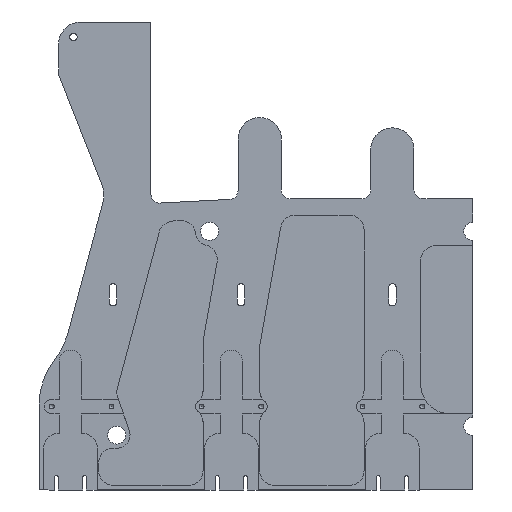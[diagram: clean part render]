
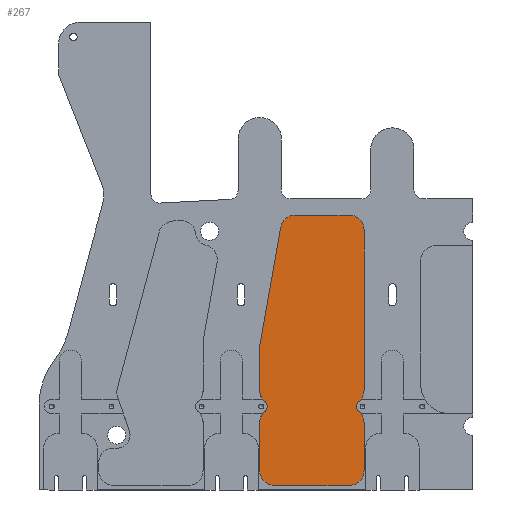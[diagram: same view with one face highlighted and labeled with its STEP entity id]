
A CAD part, front view. The second image highlights one B-rep face of the part: STEP entity #267.
In plain terms, the highlighted planar face has unit normal (0, -1, 0).
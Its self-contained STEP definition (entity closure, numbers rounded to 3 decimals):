
#267=ADVANCED_FACE('',(#1882),#1884,.T.);
#1882=FACE_BOUND('',#1883,.T.);
#1883=EDGE_LOOP('',(#3302,#3303,#3304,#3305,#3306,#3307,#3308,#3309,#3310,#3311,
#3312,#3313,#3314,#3315,#3316,#3317,#3318,#3319));
#1884=PLANE('',#1885);
#1885=AXIS2_PLACEMENT_3D('',#1886,#1887,#1888);
#1886=CARTESIAN_POINT('',(0.,9.,0.));
#1887=DIRECTION('',(0.,-1.,0.));
#1888=DIRECTION('',(1.,0.,0.));
#3302=ORIENTED_EDGE('',*,*,#3838,.T.);
#3303=ORIENTED_EDGE('',*,*,#3836,.T.);
#3304=ORIENTED_EDGE('',*,*,#3834,.T.);
#3305=ORIENTED_EDGE('',*,*,#4060,.T.);
#3306=ORIENTED_EDGE('',*,*,#4061,.T.);
#3307=ORIENTED_EDGE('',*,*,#4062,.T.);
#3308=ORIENTED_EDGE('',*,*,#4063,.T.);
#3309=ORIENTED_EDGE('',*,*,#4064,.T.);
#3310=ORIENTED_EDGE('',*,*,#4024,.T.);
#3311=ORIENTED_EDGE('',*,*,#4037,.T.);
#3312=ORIENTED_EDGE('',*,*,#4010,.T.);
#3313=ORIENTED_EDGE('',*,*,#4007,.T.);
#3314=ORIENTED_EDGE('',*,*,#4005,.T.);
#3315=ORIENTED_EDGE('',*,*,#4003,.T.);
#3316=ORIENTED_EDGE('',*,*,#4001,.T.);
#3317=ORIENTED_EDGE('',*,*,#3999,.T.);
#3318=ORIENTED_EDGE('',*,*,#3997,.T.);
#3319=ORIENTED_EDGE('',*,*,#3995,.T.);
#3834=EDGE_CURVE('',#4880,#4878,#4881,.T.);
#3836=EDGE_CURVE('',#4883,#4880,#4884,.T.);
#3838=EDGE_CURVE('',#4886,#4883,#4887,.T.);
#3995=EDGE_CURVE('',#5096,#4886,#5097,.T.);
#3997=EDGE_CURVE('',#5099,#5096,#5100,.T.);
#3999=EDGE_CURVE('',#5102,#5099,#5103,.T.);
#4001=EDGE_CURVE('',#5105,#5102,#5106,.T.);
#4003=EDGE_CURVE('',#5108,#5105,#5109,.T.);
#4005=EDGE_CURVE('',#5111,#5108,#5112,.T.);
#4007=EDGE_CURVE('',#5114,#5111,#5115,.T.);
#4010=EDGE_CURVE('',#5118,#5114,#5119,.T.);
#4024=EDGE_CURVE('',#5135,#5133,#5136,.T.);
#4037=EDGE_CURVE('',#5133,#5118,#5155,.T.);
#4060=EDGE_CURVE('',#4878,#5191,#5193,.T.);
#4061=EDGE_CURVE('',#5191,#5194,#5195,.T.);
#4062=EDGE_CURVE('',#5194,#5196,#5197,.T.);
#4063=EDGE_CURVE('',#5196,#5198,#5199,.T.);
#4064=EDGE_CURVE('',#5198,#5135,#5200,.T.);
#4878=VERTEX_POINT('',#7025);
#4880=VERTEX_POINT('',#7029);
#4881=CIRCLE('',#7030,10.);
#4883=VERTEX_POINT('',#7037);
#4884=CIRCLE('',#7038,4.);
#4886=VERTEX_POINT('',#7045);
#4887=CIRCLE('',#7046,10.);
#5096=VERTEX_POINT('',#7594);
#5097=LINE('',#7595,#7596);
#5099=VERTEX_POINT('',#7601);
#5100=CIRCLE('',#7602,10.);
#5102=VERTEX_POINT('',#7609);
#5103=LINE('',#7610,#7611);
#5105=VERTEX_POINT('',#7616);
#5106=CIRCLE('',#7617,10.);
#5108=VERTEX_POINT('',#7624);
#5109=LINE('',#7625,#7626);
#5111=VERTEX_POINT('',#7631);
#5112=CIRCLE('',#7632,10.);
#5114=VERTEX_POINT('',#7639);
#5115=LINE('',#7640,#7641);
#5118=VERTEX_POINT('',#7649);
#5119=CIRCLE('',#7650,10.);
#5133=VERTEX_POINT('',#7692);
#5135=VERTEX_POINT('',#7696);
#5136=CIRCLE('',#7697,10.);
#5155=CIRCLE('',#7745,4.);
#5191=VERTEX_POINT('',#7836);
#5193=LINE('',#7840,#7841);
#5194=VERTEX_POINT('',#7843);
#5195=CIRCLE('',#7844,10.);
#5196=VERTEX_POINT('',#7848);
#5197=LINE('',#7849,#7850);
#5198=VERTEX_POINT('',#7852);
#5199=CIRCLE('',#7853,10.);
#5200=LINE('',#7857,#7858);
#7025=CARTESIAN_POINT('',(-143.,9.,45.276));
#7029=CARTESIAN_POINT('',(-139.429,9.,52.936));
#7030=AXIS2_PLACEMENT_3D('',#7031,#7032,#7033);
#7031=CARTESIAN_POINT('',(-133.,9.,45.276));
#7032=DIRECTION('',(0.,-1.,0.));
#7033=DIRECTION('',(-0.643,0.,0.766));
#7037=CARTESIAN_POINT('',(-139.429,9.,59.064));
#7038=AXIS2_PLACEMENT_3D('',#7039,#7040,#7041);
#7039=CARTESIAN_POINT('',(-142.,9.,56.));
#7040=DIRECTION('',(0.,1.,0.));
#7041=DIRECTION('',(0.643,0.,0.766));
#7045=CARTESIAN_POINT('',(-143.,9.,66.724));
#7046=AXIS2_PLACEMENT_3D('',#7047,#7048,#7049);
#7047=CARTESIAN_POINT('',(-133.,9.,66.724));
#7048=DIRECTION('',(0.,-1.,0.));
#7049=DIRECTION('',(-1.,0.,0.));
#7594=CARTESIAN_POINT('',(-143.,9.,95.6));
#7595=CARTESIAN_POINT('',(-143.,9.,95.6));
#7596=VECTOR('',#7597,1.);
#7597=DIRECTION('',(0.,0.,-1.));
#7601=CARTESIAN_POINT('',(-142.848,9.,97.337));
#7602=AXIS2_PLACEMENT_3D('',#7603,#7604,#7605);
#7603=CARTESIAN_POINT('',(-133.,9.,95.6));
#7604=DIRECTION('',(0.,-1.,0.));
#7605=DIRECTION('',(-0.985,0.,0.174));
#7609=CARTESIAN_POINT('',(-128.936,9.,176.236));
#7610=CARTESIAN_POINT('',(-128.936,9.,176.236));
#7611=VECTOR('',#7612,1.);
#7612=DIRECTION('',(-0.174,0.,-0.985));
#7616=CARTESIAN_POINT('',(-119.088,9.,184.5));
#7617=AXIS2_PLACEMENT_3D('',#7618,#7619,#7620);
#7618=CARTESIAN_POINT('',(-119.088,9.,174.5));
#7619=DIRECTION('',(0.,-1.,0.));
#7620=DIRECTION('',(0.,0.,1.));
#7624=CARTESIAN_POINT('',(-83.,9.,184.5));
#7625=CARTESIAN_POINT('',(-83.,9.,184.5));
#7626=VECTOR('',#7627,1.);
#7627=DIRECTION('',(-1.,0.,0.));
#7631=CARTESIAN_POINT('',(-73.,9.,174.5));
#7632=AXIS2_PLACEMENT_3D('',#7633,#7634,#7635);
#7633=CARTESIAN_POINT('',(-83.,9.,174.5));
#7634=DIRECTION('',(0.,-1.,0.));
#7635=DIRECTION('',(1.,0.,0.));
#7639=CARTESIAN_POINT('',(-73.,9.,66.724));
#7640=CARTESIAN_POINT('',(-73.,9.,66.724));
#7641=VECTOR('',#7642,1.);
#7642=DIRECTION('',(0.,0.,1.));
#7649=CARTESIAN_POINT('',(-76.571,9.,59.064));
#7650=AXIS2_PLACEMENT_3D('',#7651,#7652,#7653);
#7651=CARTESIAN_POINT('',(-83.,9.,66.724));
#7652=DIRECTION('',(0.,-1.,0.));
#7653=DIRECTION('',(0.643,0.,-0.766));
#7692=CARTESIAN_POINT('',(-76.571,9.,52.936));
#7696=CARTESIAN_POINT('',(-73.,9.,45.276));
#7697=AXIS2_PLACEMENT_3D('',#7698,#7699,#7700);
#7698=CARTESIAN_POINT('',(-83.,9.,45.276));
#7699=DIRECTION('',(0.,-1.,0.));
#7700=DIRECTION('',(1.,0.,0.));
#7745=AXIS2_PLACEMENT_3D('',#7746,#7747,#7748);
#7746=CARTESIAN_POINT('',(-74.,9.,56.));
#7747=DIRECTION('',(0.,1.,0.));
#7748=DIRECTION('',(-0.643,0.,-0.766));
#7836=CARTESIAN_POINT('',(-143.,9.,13.));
#7840=CARTESIAN_POINT('',(-143.,9.,45.276));
#7841=VECTOR('',#7842,1.);
#7842=DIRECTION('',(0.,0.,-1.));
#7843=CARTESIAN_POINT('',(-133.,9.,3.));
#7844=AXIS2_PLACEMENT_3D('',#7845,#7846,#7847);
#7845=CARTESIAN_POINT('',(-133.,9.,13.));
#7846=DIRECTION('',(0.,-1.,0.));
#7847=DIRECTION('',(-1.,0.,0.));
#7848=CARTESIAN_POINT('',(-83.,9.,3.));
#7849=CARTESIAN_POINT('',(-133.,9.,3.));
#7850=VECTOR('',#7851,1.);
#7851=DIRECTION('',(1.,0.,0.));
#7852=CARTESIAN_POINT('',(-73.,9.,13.));
#7853=AXIS2_PLACEMENT_3D('',#7854,#7855,#7856);
#7854=CARTESIAN_POINT('',(-83.,9.,13.));
#7855=DIRECTION('',(0.,-1.,0.));
#7856=DIRECTION('',(0.,0.,-1.));
#7857=CARTESIAN_POINT('',(-73.,9.,13.));
#7858=VECTOR('',#7859,1.);
#7859=DIRECTION('',(0.,0.,1.));
